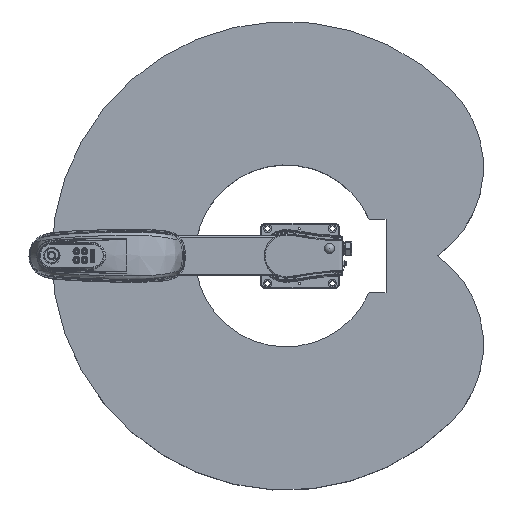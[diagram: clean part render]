
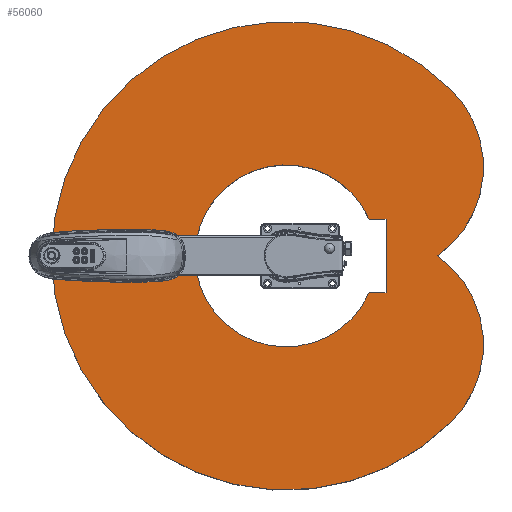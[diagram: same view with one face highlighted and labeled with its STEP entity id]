
A CAD part, top view. The second image highlights one B-rep face of the part: STEP entity #56060.
In plain terms, the highlighted planar face has unit normal (0, 0, 1) as drawn and (0, 1, 0) by its records, which use the part's own axes.
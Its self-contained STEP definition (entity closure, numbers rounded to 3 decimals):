
#6458 = EDGE_CURVE ( 'NONE', #42190, #42151, #46654, .T. ) ;
#6464 = EDGE_CURVE ( 'NONE', #42192, #42143, #46628, .T. ) ;
#6469 = EDGE_CURVE ( 'NONE', #42130, #42139, #46611, .T. ) ;
#6471 = EDGE_CURVE ( 'NONE', #42139, #42192, #46607, .T. ) ;
#6472 = EDGE_CURVE ( 'NONE', #42143, #42130, #46596, .T. ) ;
#6474 = EDGE_CURVE ( 'NONE', #42191, #42186, #143882, .T. ) ;
#6475 = EDGE_CURVE ( 'NONE', #42135, #42191, #143880, .T. ) ;
#6477 = EDGE_CURVE ( 'NONE', #42151, #42135, #44949, .T. ) ;
#6478 = EDGE_CURVE ( 'NONE', #42186, #42190, #143920, .T. ) ;
#42130 = VERTEX_POINT ( 'NONE', #145482 ) ;
#42135 = VERTEX_POINT ( 'NONE', #145496 ) ;
#42139 = VERTEX_POINT ( 'NONE', #145507 ) ;
#42143 = VERTEX_POINT ( 'NONE', #145517 ) ;
#42151 = VERTEX_POINT ( 'NONE', #145540 ) ;
#42186 = VERTEX_POINT ( 'NONE', #145639 ) ;
#42190 = VERTEX_POINT ( 'NONE', #145651 ) ;
#42191 = VERTEX_POINT ( 'NONE', #145654 ) ;
#42192 = VERTEX_POINT ( 'NONE', #145657 ) ;
#44934 = AXIS2_PLACEMENT_3D ( 'NONE', #143923, #143926, #143929 ) ;
#44947 = VECTOR ( 'NONE', #143934, 1000. ) ;
#44949 = CIRCLE ( 'NONE', #44934, 271.832 ) ;
#44955 = VECTOR ( 'NONE', #143900, 1000. ) ;
#44965 = AXIS2_PLACEMENT_3D ( 'NONE', #143871, #143874, #143877 ) ;
#44970 = AXIS2_PLACEMENT_3D ( 'NONE', #143858, #143861, #143864 ) ;
#46596 = CIRCLE ( 'NONE', #44965, 325. ) ;
#46600 = VECTOR ( 'NONE', #143893, 1000. ) ;
#46602 = AXIS2_PLACEMENT_3D ( 'NONE', #143837, #143839, #143841 ) ;
#46607 = CIRCLE ( 'NONE', #44970, 700. ) ;
#46611 = CIRCLE ( 'NONE', #46602, 325. ) ;
#46620 = AXIS2_PLACEMENT_3D ( 'NONE', #143787, #143789, #143792 ) ;
#46628 = CIRCLE ( 'NONE', #46620, 700. ) ;
#46643 = AXIS2_PLACEMENT_3D ( 'NONE', #143723, #143726, #143728 ) ;
#46654 = CIRCLE ( 'NONE', #46643, 271.832 ) ;
#56060 = ADVANCED_FACE ( 'NONE', ( #95990, #95995 ), #95999, .T. ) ;
#95982 = DIRECTION ( 'NONE',  ( 0., 1., 0. ) ) ;
#95987 = CARTESIAN_POINT ( 'NONE',  ( 132.583, 400., 132.583 ) ) ;
#95990 = FACE_OUTER_BOUND ( 'NONE', #164772, .T. ) ;
#95995 = FACE_BOUND ( 'NONE', #164774, .T. ) ;
#95999 = PLANE ( 'NONE',  #194951 ) ;
#96005 = DIRECTION ( 'NONE',  ( 0., 0., 1. ) ) ;
#135578 = ORIENTED_EDGE ( 'NONE', *, *, #6469, .T. ) ;
#135582 = ORIENTED_EDGE ( 'NONE', *, *, #6471, .T. ) ;
#135586 = ORIENTED_EDGE ( 'NONE', *, *, #6464, .T. ) ;
#135588 = ORIENTED_EDGE ( 'NONE', *, *, #6472, .T. ) ;
#135591 = ORIENTED_EDGE ( 'NONE', *, *, #6474, .F. ) ;
#135595 = ORIENTED_EDGE ( 'NONE', *, *, #6475, .F. ) ;
#135598 = ORIENTED_EDGE ( 'NONE', *, *, #6477, .F. ) ;
#135601 = ORIENTED_EDGE ( 'NONE', *, *, #6458, .F. ) ;
#135605 = ORIENTED_EDGE ( 'NONE', *, *, #6478, .F. ) ;
#143723 = CARTESIAN_POINT ( 'NONE',  ( 0., 400., 0. ) ) ;
#143726 = DIRECTION ( 'NONE',  ( 0., 1., 0. ) ) ;
#143728 = DIRECTION ( 'NONE',  ( 0., 0., 1. ) ) ;
#143787 = CARTESIAN_POINT ( 'NONE',  ( 0., 400., 0. ) ) ;
#143789 = DIRECTION ( 'NONE',  ( 0., 1., 0. ) ) ;
#143792 = DIRECTION ( 'NONE',  ( 0., 0., 1. ) ) ;
#143837 = CARTESIAN_POINT ( 'NONE',  ( 265.165, 400., 265.165 ) ) ;
#143839 = DIRECTION ( 'NONE',  ( 0., 1., 0. ) ) ;
#143841 = DIRECTION ( 'NONE',  ( 0., 0., 1. ) ) ;
#143858 = CARTESIAN_POINT ( 'NONE',  ( 0., 400., 0. ) ) ;
#143861 = DIRECTION ( 'NONE',  ( 0., 1., 0. ) ) ;
#143864 = DIRECTION ( 'NONE',  ( 0., 0., 1. ) ) ;
#143866 = CARTESIAN_POINT ( 'NONE',  ( -110., 400., 299. ) ) ;
#143871 = CARTESIAN_POINT ( 'NONE',  ( -265.165, 400., 265.165 ) ) ;
#143874 = DIRECTION ( 'NONE',  ( 0., 1., 0. ) ) ;
#143877 = DIRECTION ( 'NONE',  ( 0., 0., 1. ) ) ;
#143880 = LINE ( 'NONE', #143895, #44955 ) ;
#143882 = LINE ( 'NONE', #143866, #46600 ) ;
#143893 = DIRECTION ( 'NONE',  ( 1., 0., 0. ) ) ;
#143895 = CARTESIAN_POINT ( 'NONE',  ( -110., 400., 248.581 ) ) ;
#143900 = DIRECTION ( 'NONE',  ( 0., 0., 1. ) ) ;
#143902 = CARTESIAN_POINT ( 'NONE',  ( 110., 400., 248.581 ) ) ;
#143920 = LINE ( 'NONE', #143902, #44947 ) ;
#143923 = CARTESIAN_POINT ( 'NONE',  ( 0., 400., 0. ) ) ;
#143926 = DIRECTION ( 'NONE',  ( 0., 1., 0. ) ) ;
#143929 = DIRECTION ( 'NONE',  ( 0., 0., 1. ) ) ;
#143934 = DIRECTION ( 'NONE',  ( 0., 0., -1. ) ) ;
#145482 = CARTESIAN_POINT ( 'NONE',  ( 0., 400., 453.081 ) ) ;
#145496 = CARTESIAN_POINT ( 'NONE',  ( -110., 400., 248.581 ) ) ;
#145507 = CARTESIAN_POINT ( 'NONE',  ( 494.975, 400., 494.975 ) ) ;
#145517 = CARTESIAN_POINT ( 'NONE',  ( -494.975, 400., 494.975 ) ) ;
#145540 = CARTESIAN_POINT ( 'NONE',  ( 0., 400., -271.832 ) ) ;
#145639 = CARTESIAN_POINT ( 'NONE',  ( 110., 400., 299. ) ) ;
#145651 = CARTESIAN_POINT ( 'NONE',  ( 110., 400., 248.581 ) ) ;
#145654 = CARTESIAN_POINT ( 'NONE',  ( -110., 400., 299. ) ) ;
#145657 = CARTESIAN_POINT ( 'NONE',  ( 0., 400., -700. ) ) ;
#164772 = EDGE_LOOP ( 'NONE', ( #135578, #135582, #135586, #135588 ) ) ;
#164774 = EDGE_LOOP ( 'NONE', ( #135591, #135595, #135598, #135601, #135605 ) ) ;
#194951 = AXIS2_PLACEMENT_3D ( 'NONE', #95987, #95982, #96005 ) ;
